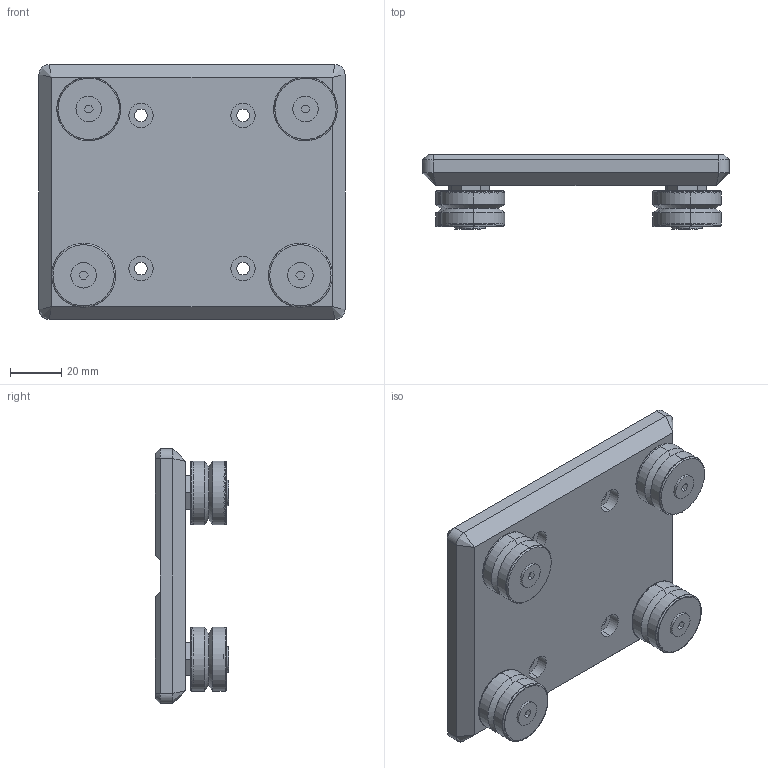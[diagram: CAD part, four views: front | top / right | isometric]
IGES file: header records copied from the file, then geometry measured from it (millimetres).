
Start section: 3D InterOp IGES (Version 21 0 1), Spatial Corp. Copyright (c) 1999-2007.
Global section: file name: RG-120(GF-44N).igs; native system: Spatial Corp.; preprocessor: 3D InterOp GENERIC/IGES 3.0; author: Noname; organization: Noname; date: 20220328.110534; units: millimetre
Bounding box: 120 x 29 x 100 mm (x, y, z)
Surface area: 46703.7 mm2 (no closed solid volume)
Topology: 0 solids, 0 shells, 362 faces, 1632 edges, 1612 vertices
Faces by surface type: revolution 208, extrusion 150, bspline 4
